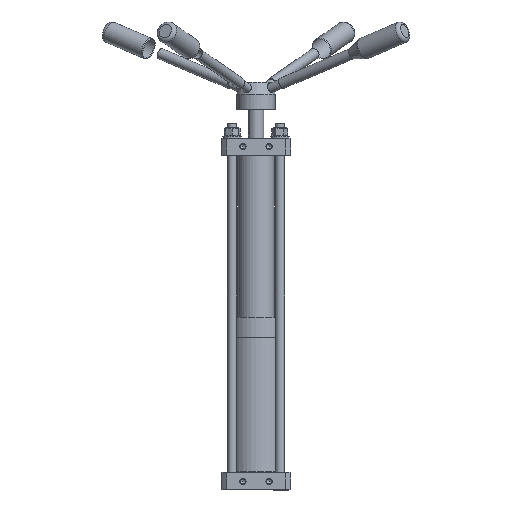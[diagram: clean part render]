
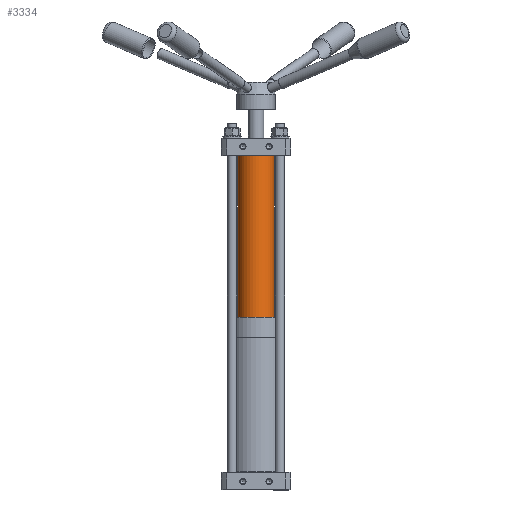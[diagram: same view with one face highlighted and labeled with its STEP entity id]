
A CAD part, front view. The second image highlights one B-rep face of the part: STEP entity #3334.
In plain terms, the highlighted cylindrical face has radius 24 mm (diameter 48 mm), a full revolution.
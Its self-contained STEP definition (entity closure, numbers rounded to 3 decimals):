
#293=LINE('',#5426,#463);
#463=VECTOR('',#4274,24.);
#598=CYLINDRICAL_SURFACE('',#3646,24.);
#698=FACE_OUTER_BOUND('',#921,.T.);
#921=EDGE_LOOP('',(#2369,#2370,#2371,#2372));
#1167=CIRCLE('',#3643,24.);
#1169=CIRCLE('',#3647,24.);
#1407=VERTEX_POINT('',#5418);
#1409=VERTEX_POINT('',#5424);
#1763=EDGE_CURVE('',#1407,#1407,#1167,.T.);
#1765=EDGE_CURVE('',#1409,#1409,#1169,.T.);
#1766=EDGE_CURVE('',#1409,#1407,#293,.T.);
#2369=ORIENTED_EDGE('',*,*,#1765,.F.);
#2370=ORIENTED_EDGE('',*,*,#1766,.T.);
#2371=ORIENTED_EDGE('',*,*,#1763,.F.);
#2372=ORIENTED_EDGE('',*,*,#1766,.F.);
#3334=ADVANCED_FACE('',(#698),#598,.T.);
#3643=AXIS2_PLACEMENT_3D('',#5419,#4264,#4265);
#3646=AXIS2_PLACEMENT_3D('',#5423,#4270,#4271);
#3647=AXIS2_PLACEMENT_3D('',#5425,#4272,#4273);
#4264=DIRECTION('center_axis',(0.,0.,
-1.));
#4265=DIRECTION('ref_axis',(0.,-1.,0.));
#4270=DIRECTION('center_axis',(0.,0.,
1.));
#4271=DIRECTION('ref_axis',(0.,-1.,0.));
#4272=DIRECTION('center_axis',(0.,0.,
1.));
#4273=DIRECTION('ref_axis',(0.,-1.,0.));
#4274=DIRECTION('',(0.,0.,-1.));
#5418=CARTESIAN_POINT('',(9.01,29.735,100.509));
#5419=CARTESIAN_POINT('Origin',(9.01,5.735,100.509));
#5423=CARTESIAN_POINT('Origin',(9.01,5.735,105.509));
#5424=CARTESIAN_POINT('',(9.01,29.735,310.509));
#5425=CARTESIAN_POINT('Origin',(9.01,5.735,310.509));
#5426=CARTESIAN_POINT('',(9.01,29.735,105.509));
